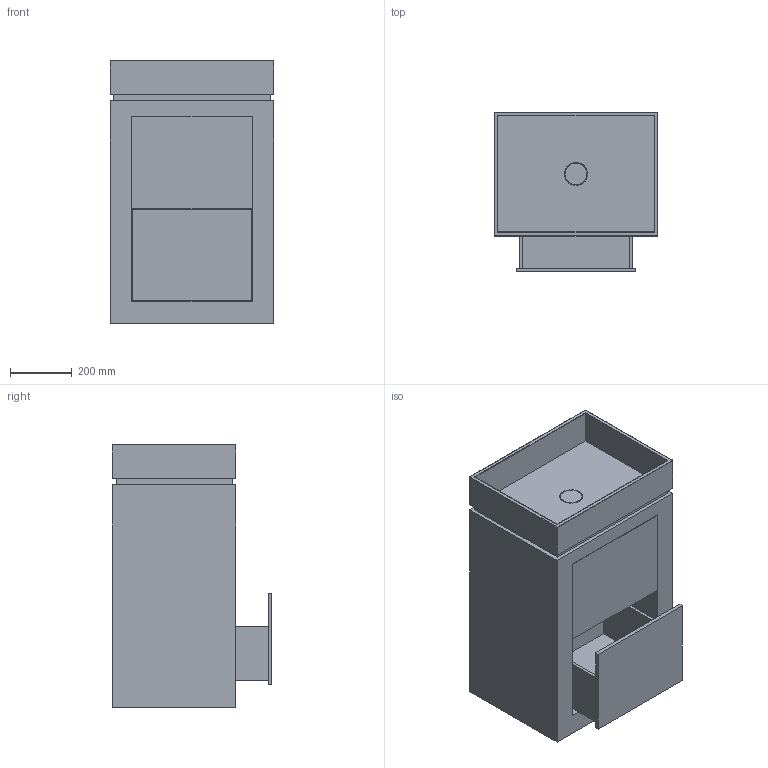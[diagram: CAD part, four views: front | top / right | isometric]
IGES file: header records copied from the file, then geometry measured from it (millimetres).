
Global section: file name: \\Archi-NAS\Comune\X GIOVANNI\SCHEDE PRODOTTO\LAVABI\FREESTANDING\TOWER PLUS\3D\MOMA DESIGN_LAVABI FREESTANDING_TOWER PLUS 3.igs; native system: Rhinoceros ( Jan 17 2018 ); preprocessor: Trout Lake IGES 012 Jan 17 2018; date: 230619.075431; units: millimetre
Bounding box: 530 x 515.62 x 850 mm (x, y, z)
Surface area: 5025814.4 mm2 (no closed solid volume)
Topology: 0 solids, 0 shells, 75 faces, 325 edges, 324 vertices
Faces by surface type: bspline 75
